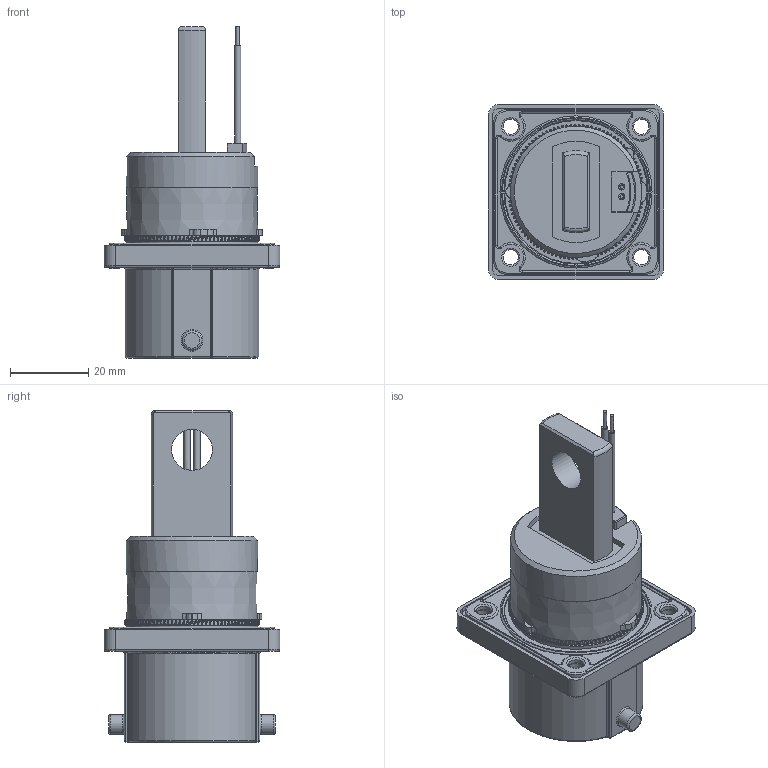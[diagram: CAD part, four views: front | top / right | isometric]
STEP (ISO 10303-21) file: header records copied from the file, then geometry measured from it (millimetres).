
FILE_DESCRIPTION (( 'STEP AP214' ), '1' );
FILE_NAME ('PL00X-50X-10XX-2_CD_RevA.STEP', '2020-03-23T02:45:26', ( '' ), ( '' ), 'SwSTEP 2.0', 'SolidWorks 2018', '' );
FILE_SCHEMA (( 'AUTOMOTIVE_DESIGN' ));
Length unit declared in the file: millimetre
Products named in the file (1): PL00X-50X-10XX-2_CD_RevA
Bounding box: 45 x 45 x 85.1 mm (x, y, z)
Volume: 33368.5 mm3; surface area: 21825.4 mm2
Topology: 2 solids, 2 shells, 507 faces, 1278 edges, 794 vertices
Faces by surface type: plane 228, cylinder 133, torus 57, bspline 51, cone 26, sphere 12
Full cylindrical faces by diameter (mm): 0.9 x2, 1.6 x2, 3.9 x4, 4.3 x4, 5 x2, 6 x1, 7 x1, 10.5 x1, 13.8 x1, 14 x1, 14.3 x1, 32.3 x1, 33.65 x2, 36.6 x1, 37 x1, 39 x1
Entity records: 29414 total; most frequent: CARTESIAN_POINT 12361, ORIENTED_EDGE 2374, DIRECTION 2276, EDGE_CURVE 1187, AXIS2_PLACEMENT_3D 835, VERTEX_POINT 770, EDGE_LOOP 609, VECTOR 606
